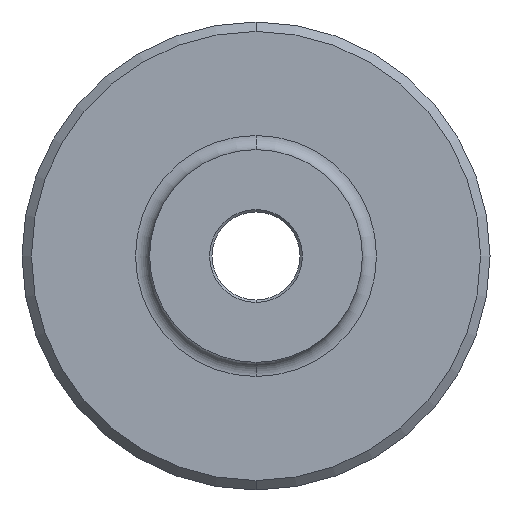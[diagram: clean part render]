
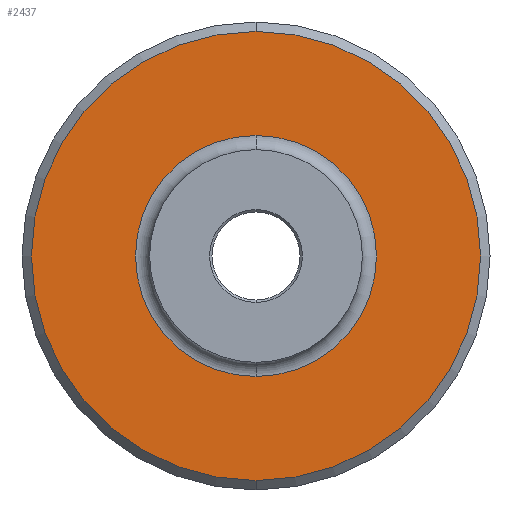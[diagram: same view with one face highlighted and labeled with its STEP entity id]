
A CAD part, front view. The second image highlights one B-rep face of the part: STEP entity #2437.
In plain terms, the highlighted planar face has unit normal (0, -1, 0).
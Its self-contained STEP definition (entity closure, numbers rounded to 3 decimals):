
#1007 = DIRECTION ( 'NONE',  ( 0., 0., 1. ) ) ;
#2350 = ORIENTED_EDGE ( 'NONE', *, *, #84224, .T. ) ;
#2353 = EDGE_CURVE ( 'NONE', #33464, #81739, #110245, .T. ) ;
#2437 = ADVANCED_FACE ( 'NONE', ( #14727, #42501 ), #7166, .F. ) ;
#3943 = CARTESIAN_POINT ( 'NONE',  ( -43.744, -178.049, 155.781 ) ) ;
#7034 = AXIS2_PLACEMENT_3D ( 'NONE', #73621, #38394, #73036 ) ;
#7166 = PLANE ( 'NONE',  #75139 ) ;
#7841 = EDGE_CURVE ( 'NONE', #74371, #100493, #39676, .T. ) ;
#7902 = CIRCLE ( 'NONE', #111299, 47.5 ) ;
#14727 = FACE_OUTER_BOUND ( 'NONE', #27737, .T. ) ;
#16430 = DIRECTION ( 'NONE',  ( 0., 0., 1. ) ) ;
#17006 = DIRECTION ( 'NONE',  ( 0., 0., 1. ) ) ;
#17293 = DIRECTION ( 'NONE',  ( 0., 0., 1. ) ) ;
#21857 = CARTESIAN_POINT ( 'NONE',  ( -43.744, -178.049, 250.781 ) ) ;
#24531 = DIRECTION ( 'NONE',  ( 0., 1., 0. ) ) ;
#27737 = EDGE_LOOP ( 'NONE', ( #114055, #2350 ) ) ;
#33464 = VERTEX_POINT ( 'NONE', #57275 ) ;
#33780 = DIRECTION ( 'NONE',  ( 0., 1., 0. ) ) ;
#36363 = AXIS2_PLACEMENT_3D ( 'NONE', #59217, #24531, #16430 ) ;
#38394 = DIRECTION ( 'NONE',  ( 0., 1., 0. ) ) ;
#39676 = CIRCLE ( 'NONE', #100670, 47.5 ) ;
#42501 = FACE_BOUND ( 'NONE', #99976, .T. ) ;
#48141 = CARTESIAN_POINT ( 'NONE',  ( -43.744, -178.049, 228.781 ) ) ;
#51930 = ORIENTED_EDGE ( 'NONE', *, *, #63066, .T. ) ;
#53663 = CARTESIAN_POINT ( 'NONE',  ( -43.744, -178.049, 203.281 ) ) ;
#56886 = CIRCLE ( 'NONE', #7034, 25.5 ) ;
#57228 = CARTESIAN_POINT ( 'NONE',  ( -43.744, -178.049, 203.281 ) ) ;
#57275 = CARTESIAN_POINT ( 'NONE',  ( -43.744, -178.049, 177.781 ) ) ;
#59217 = CARTESIAN_POINT ( 'NONE',  ( -43.744, -178.049, 203.281 ) ) ;
#63066 = EDGE_CURVE ( 'NONE', #81739, #33464, #56886, .T. ) ;
#65099 = ORIENTED_EDGE ( 'NONE', *, *, #2353, .T. ) ;
#73036 = DIRECTION ( 'NONE',  ( 0., 0., 1. ) ) ;
#73621 = CARTESIAN_POINT ( 'NONE',  ( -43.744, -178.049, 203.281 ) ) ;
#74371 = VERTEX_POINT ( 'NONE', #21857 ) ;
#75139 = AXIS2_PLACEMENT_3D ( 'NONE', #77699, #33780, #17006 ) ;
#77699 = CARTESIAN_POINT ( 'NONE',  ( -43.744, -178.049, 203.281 ) ) ;
#80248 = DIRECTION ( 'NONE',  ( 0., -1., 0. ) ) ;
#81739 = VERTEX_POINT ( 'NONE', #48141 ) ;
#84224 = EDGE_CURVE ( 'NONE', #100493, #74371, #7902, .T. ) ;
#96065 = DIRECTION ( 'NONE',  ( 0., -1., 0. ) ) ;
#99976 = EDGE_LOOP ( 'NONE', ( #51930, #65099 ) ) ;
#100493 = VERTEX_POINT ( 'NONE', #3943 ) ;
#100670 = AXIS2_PLACEMENT_3D ( 'NONE', #53663, #80248, #1007 ) ;
#110245 = CIRCLE ( 'NONE', #36363, 25.5 ) ;
#111299 = AXIS2_PLACEMENT_3D ( 'NONE', #57228, #96065, #17293 ) ;
#114055 = ORIENTED_EDGE ( 'NONE', *, *, #7841, .T. ) ;
